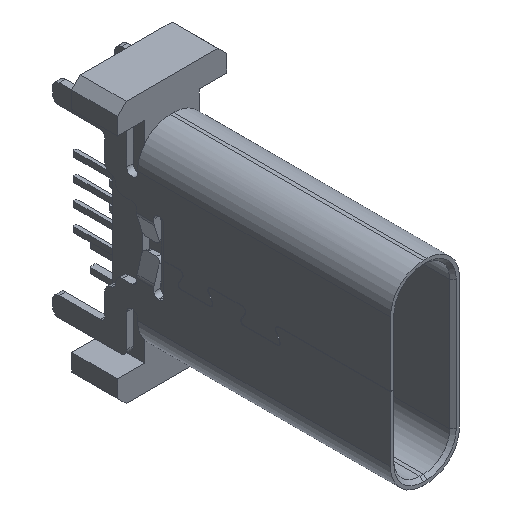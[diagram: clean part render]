
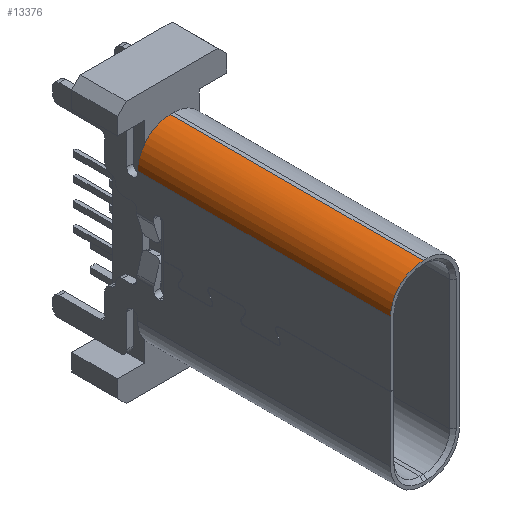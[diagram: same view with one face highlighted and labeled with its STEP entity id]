
A CAD part, isometric view. The second image highlights one B-rep face of the part: STEP entity #13376.
In plain terms, the highlighted cylindrical face has radius 1.5 mm (diameter 3 mm), a partial arc.
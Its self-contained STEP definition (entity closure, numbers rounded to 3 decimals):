
#219 = VERTEX_POINT ( 'NONE', #6339 ) ;
#456 = EDGE_CURVE ( 'NONE', #13046, #219, #6286, .T. ) ;
#605 = DIRECTION ( 'NONE',  ( 0., 0., 1. ) ) ;
#716 = LINE ( 'NONE', #12598, #2841 ) ;
#975 = CARTESIAN_POINT ( 'NONE',  ( -0.08, 2.458, 2.97 ) ) ;
#1743 = DIRECTION ( 'NONE',  ( 0., 0., 1. ) ) ;
#1885 = LINE ( 'NONE', #7352, #4418 ) ;
#2425 = AXIS2_PLACEMENT_3D ( 'NONE', #10974, #7761, #605 ) ;
#2841 = VECTOR ( 'NONE', #4201, 1000. ) ;
#2933 = FACE_OUTER_BOUND ( 'NONE', #13386, .T. ) ;
#3478 = CARTESIAN_POINT ( 'NONE',  ( -0.08, -9.3, 2.97 ) ) ;
#3601 = ORIENTED_EDGE ( 'NONE', *, *, #9502, .F. ) ;
#4047 = CYLINDRICAL_SURFACE ( 'NONE', #13818, 1.5 ) ;
#4201 = DIRECTION ( 'NONE',  ( 0., -1., 0. ) ) ;
#4295 = CARTESIAN_POINT ( 'NONE',  ( -1.58, -9.3, 2.97 ) ) ;
#4329 = VERTEX_POINT ( 'NONE', #8496 ) ;
#4418 = VECTOR ( 'NONE', #9388, 1000. ) ;
#4975 = ORIENTED_EDGE ( 'NONE', *, *, #6930, .F. ) ;
#5879 = ORIENTED_EDGE ( 'NONE', *, *, #456, .T. ) ;
#6266 = ORIENTED_EDGE ( 'NONE', *, *, #6400, .T. ) ;
#6286 = CIRCLE ( 'NONE', #13655, 1.5 ) ;
#6339 = CARTESIAN_POINT ( 'NONE',  ( -1.58, 2.3, 2.97 ) ) ;
#6400 = EDGE_CURVE ( 'NONE', #8744, #7883, #8193, .T. ) ;
#6432 = CIRCLE ( 'NONE', #2425, 1.5 ) ;
#6544 = DIRECTION ( 'NONE',  ( -1., 0., 0. ) ) ;
#6930 = EDGE_CURVE ( 'NONE', #4329, #7883, #716, .T. ) ;
#7352 = CARTESIAN_POINT ( 'NONE',  ( -1.58, -5.6, 2.97 ) ) ;
#7761 = DIRECTION ( 'NONE',  ( 0., -1., 0. ) ) ;
#7883 = VERTEX_POINT ( 'NONE', #10773 ) ;
#8193 = CIRCLE ( 'NONE', #9541, 1.5 ) ;
#8291 = DIRECTION ( 'NONE',  ( -0.78, 0., 0.626 ) ) ;
#8496 = CARTESIAN_POINT ( 'NONE',  ( -0.08, 2.3, 4.47 ) ) ;
#8744 = VERTEX_POINT ( 'NONE', #4295 ) ;
#9388 = DIRECTION ( 'NONE',  ( 0., 1., 0. ) ) ;
#9417 = DIRECTION ( 'NONE',  ( 0., -1., 0. ) ) ;
#9443 = ORIENTED_EDGE ( 'NONE', *, *, #9663, .T. ) ;
#9502 = EDGE_CURVE ( 'NONE', #8744, #219, #1885, .T. ) ;
#9541 = AXIS2_PLACEMENT_3D ( 'NONE', #3478, #12918, #6544 ) ;
#9663 = EDGE_CURVE ( 'NONE', #4329, #13046, #6432, .T. ) ;
#10576 = CARTESIAN_POINT ( 'NONE',  ( -1.25, 2.3, 3.909 ) ) ;
#10773 = CARTESIAN_POINT ( 'NONE',  ( -0.08, -9.3, 4.47 ) ) ;
#10974 = CARTESIAN_POINT ( 'NONE',  ( -0.08, 2.3, 2.97 ) ) ;
#12373 = DIRECTION ( 'NONE',  ( 0., -1., 0. ) ) ;
#12598 = CARTESIAN_POINT ( 'NONE',  ( -0.08, 2.3, 4.47 ) ) ;
#12918 = DIRECTION ( 'NONE',  ( 0., 1., 0. ) ) ;
#13046 = VERTEX_POINT ( 'NONE', #10576 ) ;
#13376 = ADVANCED_FACE ( 'NONE', ( #2933 ), #4047, .T. ) ;
#13386 = EDGE_LOOP ( 'NONE', ( #5879, #3601, #6266, #4975, #9443 ) ) ;
#13604 = CARTESIAN_POINT ( 'NONE',  ( -0.08, 2.3, 2.97 ) ) ;
#13655 = AXIS2_PLACEMENT_3D ( 'NONE', #13604, #9417, #8291 ) ;
#13818 = AXIS2_PLACEMENT_3D ( 'NONE', #975, #12373, #1743 ) ;
